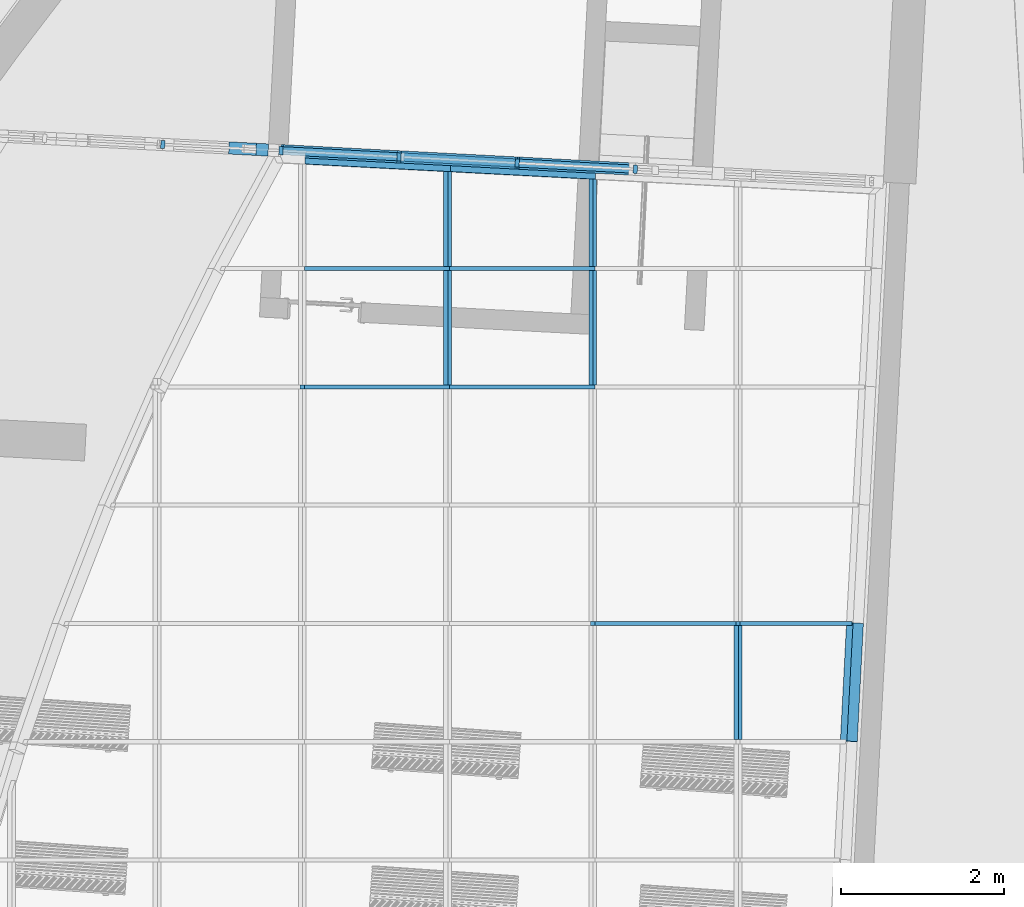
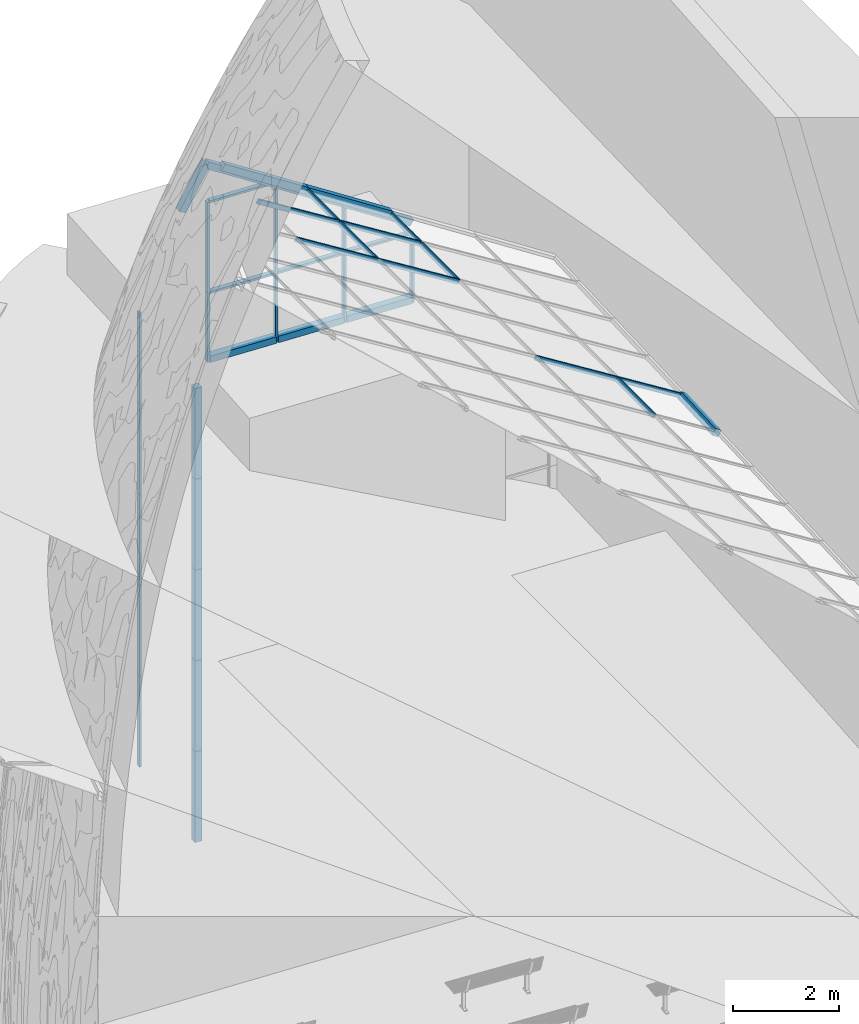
# One storey, part 20 of 82: 42 members, 1 element without a shape of its own.
"""IFC2X3 building model written with IfcOpenShell, lengths in millimetres."""

from ifc_helpers import new_model, entity, si_unit, converted_unit, derived_unit, direction, frame, frame_2d, origin, origin_2d_with_axis, place, context, subcontext, project, spatial, polyline, rectangle, extrude, clip, halfspace, bounded_halfspace, source, transform, mapped, material, type_object, type_shapes, element, aggregate, save


model = new_model("IFC2X3")

# Units and contexts
model_context = context("Model", 3, precision=0.01, world=origin(), true_north=direction((6.12303176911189e-17, 1.0)))
body_context = subcontext(model_context, "Body", "Model", "MODEL_VIEW")
ifc_project = project(units=[si_unit("LENGTHUNIT", "METRE", prefix="MILLI"), si_unit("AREAUNIT", "SQUARE_METRE"), si_unit("VOLUMEUNIT", "CUBIC_METRE"), converted_unit("PLANEANGLEUNIT", "DEGREE", entity("IfcRatioMeasure", 0.0174532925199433), si_unit("PLANEANGLEUNIT", "RADIAN"), dimensions=[0, 0, 0, 0, 0, 0, 0]), si_unit("MASSUNIT", "GRAM", prefix="KILO"), derived_unit("MASSDENSITYUNIT", [(si_unit("MASSUNIT", "GRAM", prefix="KILO"), 1), (si_unit("LENGTHUNIT", "METRE"), -3)]), si_unit("TIMEUNIT", "SECOND"), si_unit("FREQUENCYUNIT", "HERTZ"), si_unit("THERMODYNAMICTEMPERATUREUNIT", "DEGREE_CELSIUS"), derived_unit("THERMALTRANSMITTANCEUNIT", [(si_unit("MASSUNIT", "GRAM", prefix="KILO"), 1), (si_unit("THERMODYNAMICTEMPERATUREUNIT", "KELVIN"), -1), (si_unit("TIMEUNIT", "SECOND"), -3)]), derived_unit("VOLUMETRICFLOWRATEUNIT", [(si_unit("LENGTHUNIT", "METRE"), 3), (si_unit("TIMEUNIT", "SECOND"), -1)]), si_unit("ELECTRICCURRENTUNIT", "AMPERE"), si_unit("ELECTRICVOLTAGEUNIT", "VOLT"), si_unit("POWERUNIT", "WATT"), si_unit("FORCEUNIT", "NEWTON", prefix="KILO"), si_unit("ILLUMINANCEUNIT", "LUX"), si_unit("LUMINOUSFLUXUNIT", "LUMEN"), si_unit("LUMINOUSINTENSITYUNIT", "CANDELA"), derived_unit("USERDEFINED", [(si_unit("MASSUNIT", "GRAM", prefix="KILO"), -1), (si_unit("LENGTHUNIT", "METRE"), -2), (si_unit("TIMEUNIT", "SECOND"), 3), (si_unit("LUMINOUSFLUXUNIT", "LUMEN"), 1)]), derived_unit("LINEARVELOCITYUNIT", [(si_unit("LENGTHUNIT", "METRE"), 1), (si_unit("TIMEUNIT", "SECOND"), -1)]), si_unit("PRESSUREUNIT", "PASCAL"), derived_unit("USERDEFINED", [(si_unit("LENGTHUNIT", "METRE"), -2), (si_unit("MASSUNIT", "GRAM", prefix="KILO"), 1), (si_unit("TIMEUNIT", "SECOND"), -2)])], contexts=[model_context])

# Site, building, storey
site_placement = place(None, origin())
site = spatial("IfcSite", under=ifc_project, at=site_placement, Name="表面", CompositionType="ELEMENT")
building_placement = place(site_placement, origin())
building = spatial("IfcBuilding", under=site, at=building_placement, CompositionType="ELEMENT")
storey_placement = place(building_placement, origin())
storey = spatial("IfcBuildingStorey", under=building, at=storey_placement, Name="1F", CompositionType="ELEMENT", Elevation=0.0)

# Curtain wall, members
curtain_wall_type = type_object("IfcCurtainWallType", Name="幕墙系统:1450 x 2100mm", PredefinedType="NOTDEFINED")
curtain_wall_placement = place(storey_placement, origin())
curtain_wall = element("IfcCurtainWall", 1, at=curtain_wall_placement, inside=storey, type_object=curtain_wall_type, Name="幕墙系统:1450 x 2100mm", ObjectType="幕墙系统:1450 x 2100mm")
ifc_material_1 = material(Name="金属 - 铝")
member_type_1 = type_object("IfcMemberType", Name="50 x 100mm", PredefinedType="MEMBER")
shared_shape_1 = source(origin(), body_context, "Body", "SweptSolid", [
    extrude(rectangle(XDim=100.0, YDim=50.0, at=origin_2d_with_axis()), frame((0.0, 0.0, -1400.0), z_axis=(0.0, 0.0, 1.0), x_axis=(0.0, -1.0, 0.0)), (0.0, 0.0, 1.0), 1400.0),
])
type_shapes(member_type_1, [shared_shape_1])
placement_1 = place(building_placement, frame((0.0, 0.0, 9000.0)))
member_1_placement = place(placement_1, frame((-19919.0996129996, -3263.90315351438, 3143.03179701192), z_axis=(0.0, 1.0, 0.0), x_axis=(-0.848048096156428, 0.0, 0.529919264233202)))
member_1 = element("IfcMember", 2, at=member_1_placement, type_object=member_type_1, material=ifc_material_1, Name="矩形竖梃:50 x 100mm", ObjectType="50 x 100mm", context=body_context, shape_type="MappedRepresentation", body=[
    mapped(shared_shape_1, transform((0.0, 0.0, 0.0), scale=1.0)),
])
member_2_placement = place(placement_1, frame((-21700.0006149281, 1086.09684648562, 4255.86225190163), z_axis=(0.0, 1.0, 0.0), x_axis=(-0.848048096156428, 0.0, 0.529919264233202)))
member_2 = element("IfcMember", 3, at=member_2_placement, type_object=member_type_1, material=ifc_material_1, Name="矩形竖梃:50 x 100mm", ObjectType="50 x 100mm", context=body_context, shape_type="MappedRepresentation", body=[
    mapped(shared_shape_1, transform((0.0, 0.0, 0.0), scale=1.0)),
])
member_3_placement = place(placement_1, frame((-23480.9016168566, 1086.09684648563, 5368.69270679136), z_axis=(0.0, 1.0, 0.0), x_axis=(-0.848048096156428, 0.0, 0.529919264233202)))
member_3 = element("IfcMember", 4, at=member_3_placement, type_object=member_type_1, material=ifc_material_1, Name="矩形竖梃:50 x 100mm", ObjectType="50 x 100mm", context=body_context, shape_type="MappedRepresentation", body=[
    mapped(shared_shape_1, transform((0.0, 0.0, 0.0), scale=1.0)),
])
member_4_placement = place(placement_1, frame((-25497.2963601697, 2555.67362681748, 3600.0), z_axis=(-0.998629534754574, 0.0523359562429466, 0.0), x_axis=(0.0, 0.0, 1.0)))
member_4 = element("IfcMember", 5, at=member_4_placement, type_object=member_type_1, material=ifc_material_1, Name="矩形竖梃:50 x 100mm", ObjectType="50 x 100mm", context=body_context, shape_type="MappedRepresentation", body=[
    mapped(shared_shape_1, transform((0.0, 0.0, 0.0), scale=1.0)),
])
member_5_placement = place(placement_1, frame((-24049.2835347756, 2479.78649026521, 3600.0), z_axis=(-0.998629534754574, 0.0523359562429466, 0.0), x_axis=(0.0, 0.0, 1.0)))
member_5 = element("IfcMember", 6, at=member_5_placement, type_object=member_type_1, material=ifc_material_1, Name="矩形竖梃:50 x 100mm", ObjectType="50 x 100mm", context=body_context, shape_type="MappedRepresentation", body=[
    mapped(shared_shape_1, transform((0.0, 0.0, 0.0), scale=1.0)),
])
member_6_placement = place(placement_1, frame((-22601.2707093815, 2403.89935371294, 3600.0), z_axis=(-0.998629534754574, 0.0523359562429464, 0.0), x_axis=(0.0, 0.0, 1.0)))
member_6 = element("IfcMember", 7, at=member_6_placement, type_object=member_type_1, material=ifc_material_1, Name="矩形竖梃:50 x 100mm", ObjectType="50 x 100mm", context=body_context, shape_type="MappedRepresentation", body=[
    mapped(shared_shape_1, transform((0.0, 0.0, 0.0), scale=1.0)),
])
member_7_placement = place(placement_1, frame((-25497.2963601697, 2555.67362681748, 5700.0), z_axis=(-0.998629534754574, 0.0523359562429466, 0.0), x_axis=(0.0, 0.0, 1.0)))
member_7 = element("IfcMember", 8, at=member_7_placement, type_object=member_type_1, material=ifc_material_1, Name="矩形竖梃:50 x 100mm", ObjectType="50 x 100mm", context=body_context, shape_type="MappedRepresentation", body=[
    mapped(shared_shape_1, transform((0.0, 0.0, 0.0), scale=1.0)),
])
member_type_2 = type_object("IfcMemberType", Name="50 x 100mm", PredefinedType="MEMBER")
shared_shape_2 = source(origin(), body_context, "Body", "SweptSolid", [
    extrude(rectangle(XDim=100.0, YDim=50.0, at=origin_2d_with_axis()), frame((0.0, 0.0, -2100.0), z_axis=(0.0, 0.0, 1.0), x_axis=(0.0, -1.0, 0.0)), (0.0, 0.0, 1.0), 2100.0),
])
type_shapes(member_type_2, [shared_shape_2])
member_8_placement = place(placement_1, frame((-21700.0006149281, -3238.90315351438, 4255.86225190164), z_axis=(-0.848048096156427, 0.0, 0.529919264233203), x_axis=(0.0, -1.0, 0.0)))
member_8 = element("IfcMember", 9, at=member_8_placement, type_object=member_type_2, material=ifc_material_1, Name="矩形竖梃:50 x 100mm", ObjectType="50 x 100mm", context=body_context, shape_type="MappedRepresentation", body=[
    mapped(shared_shape_2, transform((0.0, 0.0, 0.0), scale=1.0)),
])
member_9_placement = place(placement_1, frame((-23480.9016168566, 1111.09684648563, 5368.69270679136), z_axis=(-0.848048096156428, 0.0, 0.529919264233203), x_axis=(0.0, -1.0, 0.0)))
member_9 = element("IfcMember", 10, at=member_9_placement, type_object=member_type_2, material=ifc_material_1, Name="矩形竖梃:50 x 100mm", ObjectType="50 x 100mm", context=body_context, shape_type="MappedRepresentation", body=[
    mapped(shared_shape_2, transform((0.0, 0.0, 0.0), scale=1.0)),
])
member_10_placement = place(placement_1, frame((-23480.9016168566, -338.903153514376, 5368.69270679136), z_axis=(-0.848048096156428, 0.0, 0.529919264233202), x_axis=(0.0, -1.0, 0.0)))
member_10 = element("IfcMember", 11, at=member_10_placement, type_object=member_type_2, material=ifc_material_1, Name="矩形竖梃:50 x 100mm", ObjectType="50 x 100mm", context=body_context, shape_type="MappedRepresentation", body=[
    mapped(shared_shape_2, transform((0.0, 0.0, 0.0), scale=1.0)),
])
member_11_placement = place(placement_1, frame((-25261.8026187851, 1111.09684648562, 6481.52316168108), z_axis=(-0.848048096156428, 0.0, 0.529919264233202), x_axis=(0.0, -1.0, 0.0)))
member_11 = element("IfcMember", 12, at=member_11_placement, type_object=member_type_2, material=ifc_material_1, Name="矩形竖梃:50 x 100mm", ObjectType="50 x 100mm", context=body_context, shape_type="MappedRepresentation", body=[
    mapped(shared_shape_2, transform((0.0, 0.0, 0.0), scale=1.0)),
])
member_12_placement = place(placement_1, frame((-25261.8026187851, -338.903153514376, 6481.52316168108), z_axis=(-0.848048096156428, 0.0, 0.529919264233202), x_axis=(0.0, -1.0, 0.0)))
member_12 = element("IfcMember", 13, at=member_12_placement, type_object=member_type_2, material=ifc_material_1, Name="矩形竖梃:50 x 100mm", ObjectType="50 x 100mm", context=body_context, shape_type="MappedRepresentation", body=[
    mapped(shared_shape_2, transform((0.0, 0.0, 0.0), scale=1.0)),
])
member_13_placement = place(storey_placement, frame((-26970.2749239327, 2632.86916227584, 4200.0), z_axis=(0.0, 0.0, 1.0), x_axis=(0.998629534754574, -0.0523359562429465, 0.0)))
member_13 = element("IfcMember", 14, at=member_13_placement, type_object=member_type_2, material=ifc_material_1, Name="矩形竖梃:50 x 100mm", ObjectType="50 x 100mm", context=body_context, shape_type="MappedRepresentation", body=[
    mapped(shared_shape_2, transform((0.0, 0.0, 0.0), scale=1.0)),
])
placement_2 = place(building_placement, frame((0.0, 0.0, 3000.0)))
member_14_placement = place(placement_2, frame((-26970.2749239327, 2632.86916227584, 3300.0), z_axis=(0.0, 0.0, 1.0), x_axis=(0.998629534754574, -0.0523359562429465, 0.0)))
member_14 = element("IfcMember", 15, at=member_14_placement, type_object=member_type_2, material=ifc_material_1, Name="矩形竖梃:50 x 100mm", ObjectType="50 x 100mm", context=body_context, shape_type="MappedRepresentation", body=[
    mapped(shared_shape_2, transform((0.0, 0.0, 0.0), scale=1.0)),
])
placement_3 = place(building_placement, frame((0.0, 0.0, 6000.0)))
member_15_placement = place(placement_3, frame((-26970.2749239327, 2632.86916227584, 2400.0), z_axis=(0.0, 0.0, 1.0), x_axis=(0.998629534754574, -0.0523359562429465, 0.0)))
member_15 = element("IfcMember", 16, at=member_15_placement, type_object=member_type_2, material=ifc_material_1, Name="矩形竖梃:50 x 100mm", ObjectType="50 x 100mm", context=body_context, shape_type="MappedRepresentation", body=[
    mapped(shared_shape_2, transform((0.0, 0.0, 0.0), scale=1.0)),
])
member_16_placement = place(placement_3, frame((-26970.2749239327, 2632.86916227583, 4500.0), z_axis=(0.0, 0.0, 1.0), x_axis=(0.998629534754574, -0.0523359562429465, 0.0)))
member_16 = element("IfcMember", 17, at=member_16_placement, type_object=member_type_2, material=ifc_material_1, Name="矩形竖梃:50 x 100mm", ObjectType="50 x 100mm", context=body_context, shape_type="MappedRepresentation", body=[
    mapped(shared_shape_2, transform((0.0, 0.0, 0.0), scale=1.0)),
])
member_17_placement = place(placement_1, frame((-26970.2749239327, 2632.86916227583, 3600.0), z_axis=(0.0, 0.0, 1.0), x_axis=(0.998629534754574, -0.0523359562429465, 0.0)))
member_17 = element("IfcMember", 18, at=member_17_placement, type_object=member_type_2, material=ifc_material_1, Name="矩形竖梃:50 x 100mm", ObjectType="50 x 100mm", context=body_context, shape_type="MappedRepresentation", body=[
    mapped(shared_shape_2, transform((0.0, 0.0, 0.0), scale=1.0)),
])
member_18_placement = place(placement_1, frame((-25522.2620985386, 2556.98202572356, 5700.0), z_axis=(0.0, 0.0, 1.0), x_axis=(0.998629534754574, -0.0523359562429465, 0.0)))
member_18 = element("IfcMember", 19, at=member_18_placement, type_object=member_type_2, material=ifc_material_1, Name="矩形竖梃:50 x 100mm", ObjectType="50 x 100mm", context=body_context, shape_type="MappedRepresentation", body=[
    mapped(shared_shape_2, transform((0.0, 0.0, 0.0), scale=1.0)),
])
member_19_placement = place(placement_1, frame((-24074.2492731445, 2481.09488917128, 5700.0), z_axis=(0.0, 0.0, 1.0), x_axis=(0.998629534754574, -0.0523359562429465, 0.0)))
member_19 = element("IfcMember", 20, at=member_19_placement, type_object=member_type_2, material=ifc_material_1, Name="矩形竖梃:50 x 100mm", ObjectType="50 x 100mm", context=body_context, shape_type="MappedRepresentation", body=[
    mapped(shared_shape_2, transform((0.0, 0.0, 0.0), scale=1.0)),
])
ifc_material_2 = material(Name="木质 - 木材")
member_type_3 = type_object("IfcMemberType", Name="200 x 150mm", PredefinedType="MEMBER")
shared_shape_3 = source(origin(), body_context, "Body", "SweptSolid", [
    extrude(rectangle(XDim=150.0, YDim=150.0, at=origin_2d_with_axis()), frame((-75.0, 0.0, -1400.0), z_axis=(0.0, 0.0, 1.0), x_axis=(0.0, -1.0, 0.0)), (0.0, 0.0, 1.0), 1400.0),
])
type_shapes(member_type_3, [shared_shape_3])
member_20_placement = place(placement_1, frame((-24099.2150115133, 2482.40328807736, 2000.0), z_axis=(0.998629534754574, -0.0523359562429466, 0.0), x_axis=(0.0, 0.0, -1.0)))
member_20 = element("IfcMember", 21, at=member_20_placement, type_object=member_type_3, material=ifc_material_2, Name="矩形竖梃:200 x 150mm", ObjectType="200 x 150mm", context=body_context, shape_type="MappedRepresentation", body=[
    mapped(shared_shape_3, transform((0.0, 0.0, 0.0), scale=1.0)),
])
member_21_placement = place(placement_1, frame((-22651.2021861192, 2406.51615152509, 2000.0), z_axis=(0.998629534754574, -0.0523359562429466, 0.0), x_axis=(0.0, 0.0, -1.0)))
member_21 = element("IfcMember", 22, at=member_21_placement, type_object=member_type_3, material=ifc_material_2, Name="矩形竖梃:200 x 150mm", ObjectType="200 x 150mm", context=body_context, shape_type="MappedRepresentation", body=[
    mapped(shared_shape_3, transform((0.0, 0.0, 0.0), scale=1.0)),
])
member_22_placement = place(placement_1, frame((-21203.1893607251, 2330.62901497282, 2000.0), z_axis=(0.998629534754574, -0.0523359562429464, 0.0), x_axis=(0.0, 0.0, -1.0)))
member_22 = element("IfcMember", 23, at=member_22_placement, type_object=member_type_3, material=ifc_material_2, Name="矩形竖梃:200 x 150mm", ObjectType="200 x 150mm", context=body_context, shape_type="MappedRepresentation", body=[
    mapped(shared_shape_3, transform((0.0, 0.0, 0.0), scale=1.0)),
])
member_type_4 = type_object("IfcMemberType", Name="200 x 150mm", PredefinedType="MEMBER")
shared_shape_4 = source(origin(), body_context, "Body", "SweptSolid", [
    extrude(rectangle(XDim=150.0, YDim=150.0, at=origin_2d_with_axis()), frame((-75.0, 0.0, -2100.0), z_axis=(0.0, 0.0, 1.0), x_axis=(0.0, -1.0, 0.0)), (0.0, 0.0, 1.0), 2100.0),
])
type_shapes(member_type_4, [shared_shape_4])
member_23_placement = place(storey_placement, frame((-25677.8515984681, 2565.13612589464, 2100.0), z_axis=(0.0, 0.0, 1.0), x_axis=(0.998629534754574, -0.0523359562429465, 0.0)))
member_23 = element("IfcMember", 24, at=member_23_placement, type_object=member_type_4, material=ifc_material_2, Name="矩形竖梃:200 x 150mm", ObjectType="200 x 150mm", context=body_context, shape_type="MappedRepresentation", body=[
    mapped(shared_shape_4, transform((0.0, 0.0, 0.0), scale=1.0)),
])
member_type_5 = type_object("IfcMemberType", Name="200 x 150mm", PredefinedType="MEMBER")
shared_shape_5 = source(origin(), body_context, "Body", "SweptSolid", [
    extrude(rectangle(XDim=150.0, YDim=150.0, at=origin_2d_with_axis()), frame((-75.0, 0.0, -2100.0), z_axis=(0.0, 0.0, 1.0), x_axis=(0.0, -1.0, 0.0)), (0.0, 0.0, 1.0), 2100.0),
])
type_shapes(member_type_5, [shared_shape_5])
member_24_placement = place(storey_placement, frame((-25677.8515984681, 2565.13612589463, 4200.0), z_axis=(0.0, 0.0, 1.0), x_axis=(0.998629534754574, -0.0523359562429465, 0.0)))
member_24 = element("IfcMember", 25, at=member_24_placement, type_object=member_type_5, material=ifc_material_2, Name="矩形竖梃:200 x 150mm", ObjectType="200 x 150mm", context=body_context, shape_type="MappedRepresentation", body=[
    mapped(shared_shape_5, transform((0.0, 0.0, 0.0), scale=1.0)),
])
member_25_placement = place(placement_2, frame((-25677.8515984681, 2565.13612589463, 3300.0), z_axis=(0.0, 0.0, 1.0), x_axis=(0.998629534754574, -0.0523359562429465, 0.0)))
member_25 = element("IfcMember", 26, at=member_25_placement, type_object=member_type_5, material=ifc_material_2, Name="矩形竖梃:200 x 150mm", ObjectType="200 x 150mm", context=body_context, shape_type="MappedRepresentation", body=[
    mapped(shared_shape_5, transform((0.0, 0.0, 0.0), scale=1.0)),
])
member_26_placement = place(placement_3, frame((-25677.8515984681, 2565.13612589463, 2400.0), z_axis=(0.0, 0.0, 1.0), x_axis=(0.998629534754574, -0.0523359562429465, 0.0)))
member_26 = element("IfcMember", 27, at=member_26_placement, type_object=member_type_5, material=ifc_material_2, Name="矩形竖梃:200 x 150mm", ObjectType="200 x 150mm", context=body_context, shape_type="MappedRepresentation", body=[
    mapped(shared_shape_5, transform((0.0, 0.0, 0.0), scale=1.0)),
])
member_27_placement = place(placement_3, frame((-25677.8515984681, 2565.13612589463, 4500.0), z_axis=(0.0, 0.0, 1.0), x_axis=(0.998629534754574, -0.0523359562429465, 0.0)))
member_27 = element("IfcMember", 28, at=member_27_placement, type_object=member_type_5, material=ifc_material_2, Name="矩形竖梃:200 x 150mm", ObjectType="200 x 150mm", context=body_context, shape_type="MappedRepresentation", body=[
    mapped(shared_shape_5, transform((0.0, 0.0, 0.0), scale=1.0)),
])
member_type_6 = type_object("IfcMemberType", Name="200 x 150mm", PredefinedType="MEMBER")
shared_shape_6 = source(origin(), body_context, "Body", "SweptSolid", [
    extrude(rectangle(XDim=150.0, YDim=150.0, at=frame_2d((2.8421709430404e-14, 0.0), x_axis=(1.0, 0.0))), frame((-75.0, 0.0, -1452.76614220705), z_axis=(0.0, 0.0, 1.0), x_axis=(0.0, -1.0, 0.0)), (0.0, 0.0, 1.0), 1452.76614220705),
])
type_shapes(member_type_6, [shared_shape_6])
member_28_placement = place(placement_1, frame((-18497.6584756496, -4688.90315351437, 2254.81679473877), z_axis=(-0.0523079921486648, -0.998095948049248, 0.0326856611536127), x_axis=(0.846433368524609, -0.0616804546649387, -0.528910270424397)))
member_28 = element("IfcMember", 29, at=member_28_placement, type_object=member_type_6, material=ifc_material_2, Name="矩形竖梃:200 x 150mm", ObjectType="200 x 150mm", context=body_context, shape_type="MappedRepresentation", body=[
    mapped(shared_shape_6, transform((0.0, 0.0, 0.0), scale=1.0)),
])
member_type_7 = type_object("IfcMemberType", Name="200 x 150mm", PredefinedType="MEMBER")
shared_shape_7 = source(origin(), body_context, "Body", "SweptSolid", [
    extrude(rectangle(XDim=150.0, YDim=150.0, at=origin_2d_with_axis()), frame((-75.0, 0.0, -2102.07303900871), z_axis=(0.0, 0.0, 1.0), x_axis=(0.0, -1.0, 0.0)), (0.0, 0.0, 1.0), 2102.07303900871),
])
type_shapes(member_type_7, [shared_shape_7])
member_29_placement = place(placement_1, frame((-21700.0006149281, 2356.66578952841, 4255.86225190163), z_axis=(0.847211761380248, -0.0444004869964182, -0.529396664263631), x_axis=(0.0376537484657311, 0.999013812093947, -0.0235286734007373)))
member_29 = element("IfcMember", 30, at=member_29_placement, type_object=member_type_7, material=ifc_material_2, Name="矩形竖梃:200 x 150mm", ObjectType="200 x 150mm", context=body_context, shape_type="MappedRepresentation", body=[
    mapped(shared_shape_7, transform((0.0, 0.0, 0.0), scale=1.0)),
])
member_type_8 = type_object("IfcMemberType", Name="200 x 150mm", PredefinedType="MEMBER")
shared_shape_8 = source(origin(), body_context, "Body", "SweptSolid", [
    extrude(rectangle(XDim=150.0, YDim=150.0, at=origin_2d_with_axis()), frame((-75.0, 0.0, -2102.07303900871), z_axis=(0.0, 0.0, 1.0), x_axis=(0.0, -1.0, 0.0)), (0.0, 0.0, 1.0), 2102.07303900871),
])
type_shapes(member_type_8, [shared_shape_8])
member_30_placement = place(placement_1, frame((-23480.9016168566, 2449.99885616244, 5368.69270679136), z_axis=(0.847211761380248, -0.0444004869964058, -0.529396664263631), x_axis=(0.0376537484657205, 0.999013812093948, -0.0235286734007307)))
member_30 = element("IfcMember", 31, at=member_30_placement, type_object=member_type_8, material=ifc_material_2, Name="矩形竖梃:200 x 150mm", ObjectType="200 x 150mm", context=body_context, shape_type="MappedRepresentation", body=[
    mapped(shared_shape_8, transform((0.0, 0.0, 0.0), scale=1.0)),
])
member_type_9 = type_object("IfcMemberType", Name="50 x 100mm", PredefinedType="MEMBER")
shared_shape_9 = source(origin(), body_context, "Body", "Clipping", [
    clip(clip(extrude(rectangle(XDim=100.0, YDim=50.0, at=origin_2d_with_axis()), frame((0.0, 0.0, -1220.56894304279), z_axis=(0.0, 0.0, 1.0), x_axis=(0.0, -1.0, 0.0)), (0.0, 0.0, 1.0), 1071.531976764), bounded_halfspace(frame((-2093.33992695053, 75.0, -243.185138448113), z_axis=(-0.0444004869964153, 0.0, 0.999013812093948), x_axis=(0.999013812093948, 0.0, 0.0444004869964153)), False, frame((0.0, 0.0, -1220.56894304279), z_axis=(0.0, 0.0, 1.0), x_axis=(0.0, -1.0, 0.0)), polyline([(-50.0, 6.66007304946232), (-50.0, -25.0), (50.0, -25.0), (50.0, 6.66007304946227), (-50.0, 6.66007304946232)]))), bounded_halfspace(frame((6.66007304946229, 75.0, -149.852071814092), z_axis=(-0.0444004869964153, 0.0, 0.999013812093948), x_axis=(0.999013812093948, 0.0, 0.0444004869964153)), False, frame((0.0, 0.0, -1220.56894304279), z_axis=(0.0, 0.0, 1.0), x_axis=(0.0, -1.0, 0.0)), polyline([(-50.0, 25.0), (-50.0, 6.66007304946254), (50.0, 6.66007304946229), (50.0, 25.0), (-50.0, 25.0)]))),
])
type_shapes(member_type_9, [shared_shape_9])
member_31_placement = place(placement_1, frame((-21700.0006149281, 2356.66578952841, 4255.86225190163), z_axis=(0.0, 1.0, 0.0), x_axis=(-0.848048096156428, 0.0, 0.529919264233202)))
member_31 = element("IfcMember", 32, at=member_31_placement, type_object=member_type_9, material=ifc_material_1, Name="矩形竖梃:50 x 100mm", ObjectType="50 x 100mm", context=body_context, shape_type="MappedRepresentation", body=[
    mapped(shared_shape_9, transform((0.0, 0.0, 0.0), scale=1.0)),
])
member_type_10 = type_object("IfcMemberType", Name="50 x 100mm", PredefinedType="MEMBER")
shared_shape_10 = source(origin(), body_context, "Body", "Clipping", [
    clip(clip(extrude(rectangle(XDim=100.0, YDim=50.0, at=origin_2d_with_axis()), frame((0.0, 0.0, -1313.90200967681), z_axis=(0.0, 0.0, 1.0), x_axis=(0.0, -1.0, 0.0)), (0.0, 0.0, 1.0), 1164.86504339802), bounded_halfspace(frame((-2093.33992695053, 75.0, -243.185138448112), z_axis=(-0.0444004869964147, 0.0, 0.999013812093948), x_axis=(0.999013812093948, 0.0, 0.0444004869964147)), False, frame((0.0, 0.0, -1313.90200967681), z_axis=(0.0, 0.0, 1.0), x_axis=(0.0, -1.0, 0.0)), polyline([(-50.0, 6.66007304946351), (-50.0, -25.0), (50.0, -25.0), (50.0, 6.6600730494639), (-50.0, 6.66007304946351)]))), bounded_halfspace(frame((6.66007304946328, 75.0, -149.852071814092), z_axis=(-0.0444004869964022, 0.0, 0.999013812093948), x_axis=(0.999013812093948, 0.0, 0.0444004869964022)), False, frame((0.0, 0.0, -1313.90200967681), z_axis=(0.0, 0.0, 1.0), x_axis=(0.0, -1.0, 0.0)), polyline([(-50.0, 25.0), (-50.0, 6.6600730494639), (50.0, 6.66007304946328), (50.0, 25.0), (-50.0, 25.0)]))),
])
type_shapes(member_type_10, [shared_shape_10])
member_32_placement = place(placement_1, frame((-23480.9016168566, 2449.99885616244, 5368.69270679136), z_axis=(0.0, 1.0, 0.0), x_axis=(-0.848048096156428, 0.0, 0.529919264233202)))
member_32 = element("IfcMember", 33, at=member_32_placement, type_object=member_type_10, material=ifc_material_1, Name="矩形竖梃:50 x 100mm", ObjectType="50 x 100mm", context=body_context, shape_type="MappedRepresentation", body=[
    mapped(shared_shape_10, transform((0.0, 0.0, 0.0), scale=1.0)),
])
member_type_11 = type_object("IfcMemberType", Name="50 x 100mm", PredefinedType="MEMBER")
shared_shape_11 = source(origin(), body_context, "Body", "Clipping", [
    clip(clip(extrude(rectangle(XDim=100.0, YDim=50.0, at=frame_2d((-9.9475983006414e-14, 0.0), x_axis=(1.0, 0.0))), frame((0.0, 0.0, -1616.99876738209), z_axis=(0.0, 0.0, 1.0), x_axis=(0.0, -1.0, 0.0)), (0.0, 0.0, 1.0), 1616.99876738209), bounded_halfspace(frame((-9.25206819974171, 75.0, -1616.02557477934), z_axis=(0.0616804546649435, 0.0, -0.998095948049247), x_axis=(-0.998095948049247, 0.0, -0.0616804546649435)), False, frame((0.0, 0.0, -1616.99876738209), z_axis=(0.0, 0.0, 1.0), x_axis=(0.0, -1.0, 0.0)), polyline([(50.0, -9.25206819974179), (50.0, -25.0), (-50.0, -25.0), (-50.0, -9.25206819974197), (50.0, -9.25206819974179)]))), bounded_halfspace(frame((1440.74793180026, 75.0, -1526.41829860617), z_axis=(0.0616804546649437, 0.0, -0.998095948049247), x_axis=(-0.998095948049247, 0.0, -0.0616804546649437)), False, frame((0.0, 0.0, -1616.99876738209), z_axis=(0.0, 0.0, 1.0), x_axis=(0.0, -1.0, 0.0)), polyline([(-50.0, 25.0), (50.0, 25.0), (50.0, -9.25206819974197), (-50.0, -9.2520681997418), (-50.0, 25.0)]))),
])
type_shapes(member_type_11, [shared_shape_11])
member_33_placement = place(placement_1, frame((-19919.0996129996, -3238.90315351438, 3143.03179701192), z_axis=(-0.848048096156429, 0.0, 0.529919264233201), x_axis=(0.0, -1.0, 0.0)))
member_33 = element("IfcMember", 34, at=member_33_placement, type_object=member_type_11, material=ifc_material_1, Name="矩形竖梃:50 x 100mm", ObjectType="50 x 100mm", context=body_context, shape_type="MappedRepresentation", body=[
    mapped(shared_shape_11, transform((0.0, 0.0, 0.0), scale=1.0)),
])
member_type_12 = type_object("IfcMemberType", Name="200 x 150mm", PredefinedType="MEMBER")
shared_shape_12 = source(origin(), body_context, "Body", "Clipping", [
    clip(extrude(rectangle(XDim=150.0, YDim=150.0, at=frame_2d((-7.105427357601e-15, 0.0), x_axis=(1.0, 0.0))), frame((-75.0, 0.0, -1773.28482345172), z_axis=(0.0, 0.0, 1.0), x_axis=(0.0, -1.0, 0.0)), (0.0, 0.0, 1.0), 1773.28482345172), halfspace(frame((-75.0, 0.0, -1755.95196980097), z_axis=(0.225169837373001, 0.0, -0.974319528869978), x_axis=(0.974319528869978, 0.0, 0.225169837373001)), False)),
])
type_shapes(member_type_12, [shared_shape_12])
member_34_placement = place(placement_1, frame((-25522.2620985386, 2556.98202572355, 6644.2763079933), z_axis=(-0.847211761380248, 0.0444004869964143, 0.52939666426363), x_axis=(0.528671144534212, -0.0277064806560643, 0.84837442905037)))
member_34 = element("IfcMember", 35, at=member_34_placement, type_object=member_type_12, material=ifc_material_2, Name="矩形竖梃:200 x 150mm", ObjectType="200 x 150mm", context=body_context, shape_type="MappedRepresentation", body=[
    mapped(shared_shape_12, transform((0.0, 0.0, 0.0), scale=1.0)),
])
member_type_13 = type_object("IfcMemberType", Name="200 x 150mm", PredefinedType="MEMBER")
shared_shape_13 = source(origin(), body_context, "Body", "SweptSolid", [
    extrude(rectangle(XDim=150.0, YDim=150.0, at=frame_2d((0.0, -9.9475983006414e-14), x_axis=(1.0, 0.0))), frame((-75.0, 0.0, -1709.15099553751), z_axis=(0.0, 0.0, 1.0), x_axis=(0.0, -1.0, 0.0)), (0.0, 0.0, 1.0), 1709.1509955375),
])
type_shapes(member_type_13, [shared_shape_13])
member_35_placement = place(placement_1, frame((-22626.2364477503, 2405.20775261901, 4834.63863647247), z_axis=(-0.847211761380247, 0.0444004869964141, 0.529396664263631), x_axis=(0.528671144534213, -0.0277064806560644, 0.848374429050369)))
member_35 = element("IfcMember", 36, at=member_35_placement, type_object=member_type_13, material=ifc_material_2, Name="矩形竖梃:200 x 150mm", ObjectType="200 x 150mm", context=body_context, shape_type="MappedRepresentation", body=[
    mapped(shared_shape_13, transform((0.0, 0.0, 0.0), scale=1.0)),
])
member_type_14 = type_object("IfcMemberType", Name="200 x 150mm", PredefinedType="MEMBER")
shared_shape_14 = source(origin(), body_context, "Body", "Clipping", [
    clip(extrude(rectangle(XDim=150.0, YDim=150.0, at=origin_2d_with_axis()), frame((-75.0, 0.0, -1634.61808874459), z_axis=(0.0, 0.0, 1.0), x_axis=(0.0, -1.0, 0.0)), (0.0, 0.0, 1.0), 1827.77413082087), halfspace(frame((-75.0, 0.0, 120.189805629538), z_axis=(0.697321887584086, 0.0, 0.716758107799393), x_axis=(0.716758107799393, 0.0, -0.697321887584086)), False)),
])
type_shapes(member_type_14, [shared_shape_14])
member_36_placement = place(placement_1, frame((-24011.1041178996, 2477.78559181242, 5700.0), z_axis=(-0.847211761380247, 0.0444004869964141, 0.529396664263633), x_axis=(0.528671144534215, -0.0277064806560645, 0.848374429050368)))
member_36 = element("IfcMember", 37, at=member_36_placement, type_object=member_type_14, material=ifc_material_2, Name="矩形竖梃:200 x 150mm", ObjectType="200 x 150mm", context=body_context, shape_type="MappedRepresentation", body=[
    mapped(shared_shape_14, transform((0.0, 0.0, 0.0), scale=1.0)),
])
member_type_15 = type_object("IfcMemberType", Name="200 x 150mm", PredefinedType="MEMBER")
shared_shape_15 = source(origin(), body_context, "Body", "Clipping", [
    clip(clip(extrude(rectangle(XDim=150.0, YDim=150.0, at=origin_2d_with_axis()), frame((-75.0, 0.0, -1140.14056867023), z_axis=(0.0, 0.0, 1.0), x_axis=(0.0, -1.0, 0.0)), (0.0, 0.0, 1.0), 1140.14056867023), halfspace(frame((0.0, -304.8, -1140.14056867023), z_axis=(-0.722774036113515, 0.0, -0.691084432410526), x_axis=(-0.691084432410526, 0.0, 0.722774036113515)), False)), halfspace(frame((0.0, -304.8, 0.0), z_axis=(-0.0238072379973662, 0.0, 0.99971656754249), x_axis=(-0.99971656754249, 0.0, -0.0238072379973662)), False)),
])
type_shapes(member_type_15, [shared_shape_15])
member_37_placement = place(placement_1, frame((-26159.6530738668, 2590.38627127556, 5700.0), z_axis=(-0.4901812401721, 0.0256893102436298, -0.871241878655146), x_axis=(-0.87004787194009, 0.0455972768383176, 0.490853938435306)))
member_37 = element("IfcMember", 38, at=member_37_placement, type_object=member_type_15, material=ifc_material_2, Name="矩形竖梃:200 x 150mm", ObjectType="200 x 150mm", context=body_context, shape_type="MappedRepresentation", body=[
    mapped(shared_shape_15, transform((0.0, 0.0, 0.0), scale=1.0)),
])
member_type_16 = type_object("IfcMemberType", Name="50 x 100mm", PredefinedType="MEMBER")
shared_shape_16 = source(origin(), body_context, "Body", "Clipping", [
    clip(extrude(rectangle(XDim=100.0, YDim=50.0, at=origin_2d_with_axis()), frame((0.0, 0.0, -1234.63863647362), z_axis=(0.0, 0.0, 1.0), x_axis=(0.0, -1.0, 0.0)), (0.0, 0.0, 1.0), 1073.43023755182), halfspace(frame((-79.4094996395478, 75.0, -127.256164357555), z_axis=(0.529396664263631, 0.0, 0.848374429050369), x_axis=(0.848374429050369, 0.0, -0.529396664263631)), False)),
])
type_shapes(member_type_16, [shared_shape_16])
member_38_placement = place(placement_1, frame((-22626.2364477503, 2405.20775261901, 4834.63863647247), z_axis=(0.0, 0.0, 1.0), x_axis=(0.998629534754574, -0.0523359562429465, 0.0)))
member_38 = element("IfcMember", 39, at=member_38_placement, type_object=member_type_16, material=ifc_material_1, Name="矩形竖梃:50 x 100mm", ObjectType="50 x 100mm", context=body_context, shape_type="MappedRepresentation", body=[
    mapped(shared_shape_16, transform((0.0, 0.0, 0.0), scale=1.0)),
])
member_type_17 = type_object("IfcMemberType", Name="50 x 100mm", PredefinedType="MEMBER")
shared_shape_17 = source(origin(), body_context, "Body", "SweptSolid", [
    extrude(rectangle(XDim=100.0, YDim=50.0, at=origin_2d_with_axis()), frame((0.0, 0.0, -1600.0), z_axis=(0.0, 0.0, 1.0), x_axis=(0.0, -1.0, 0.0)), (0.0, 0.0, 1.0), 1600.0),
])
type_shapes(member_type_17, [shared_shape_17])
member_39_placement = place(placement_1, frame((-25522.2620985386, 2556.98202572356, 3600.0), z_axis=(0.0, 0.0, 1.0), x_axis=(0.998629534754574, -0.0523359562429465, 0.0)))
member_39 = element("IfcMember", 40, at=member_39_placement, type_object=member_type_17, material=ifc_material_1, Name="矩形竖梃:50 x 100mm", ObjectType="50 x 100mm", context=body_context, shape_type="MappedRepresentation", body=[
    mapped(shared_shape_17, transform((0.0, 0.0, 0.0), scale=1.0)),
])
member_40_placement = place(placement_1, frame((-24074.2492731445, 2481.09488917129, 3600.0), z_axis=(0.0, 0.0, 1.0), x_axis=(0.998629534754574, -0.0523359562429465, 0.0)))
member_40 = element("IfcMember", 41, at=member_40_placement, type_object=member_type_17, material=ifc_material_1, Name="矩形竖梃:50 x 100mm", ObjectType="50 x 100mm", context=body_context, shape_type="MappedRepresentation", body=[
    mapped(shared_shape_17, transform((0.0, 0.0, 0.0), scale=1.0)),
])
member_41_placement = place(placement_1, frame((-22626.2364477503, 2405.20775261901, 3600.0), z_axis=(0.0, 0.0, 1.0), x_axis=(0.998629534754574, -0.0523359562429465, 0.0)))
member_41 = element("IfcMember", 42, at=member_41_placement, type_object=member_type_17, material=ifc_material_1, Name="矩形竖梃:50 x 100mm", ObjectType="50 x 100mm", context=body_context, shape_type="MappedRepresentation", body=[
    mapped(shared_shape_17, transform((0.0, 0.0, 0.0), scale=1.0)),
])
member_42_placement = place(placement_1, frame((-21178.2236223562, 2329.32061606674, 3600.0), z_axis=(0.0, 0.0, 1.0), x_axis=(0.998629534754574, -0.0523359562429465, 0.0)))
member_42 = element("IfcMember", 43, at=member_42_placement, type_object=member_type_17, material=ifc_material_1, Name="矩形竖梃:50 x 100mm", ObjectType="50 x 100mm", context=body_context, shape_type="MappedRepresentation", body=[
    mapped(shared_shape_17, transform((0.0, 0.0, 0.0), scale=1.0)),
])
aggregate(curtain_wall, [member_28, member_29, member_30, member_1, member_31, member_2, member_32, member_3, member_33, member_8, member_9, member_10, member_11, member_12, member_20, member_21, member_22, member_34, member_35, member_36, member_37, member_23, member_24, member_25, member_26, member_27, member_4, member_5, member_6, member_7, member_38, member_13, member_14, member_15, member_16, member_17, member_39, member_40, member_41, member_42, member_18, member_19])

save(model, "model.ifc")
